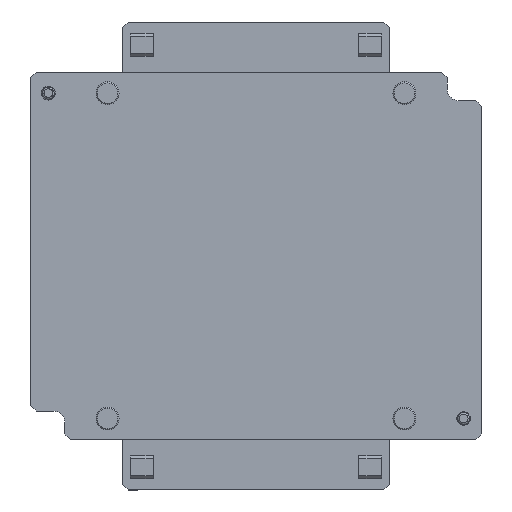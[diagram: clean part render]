
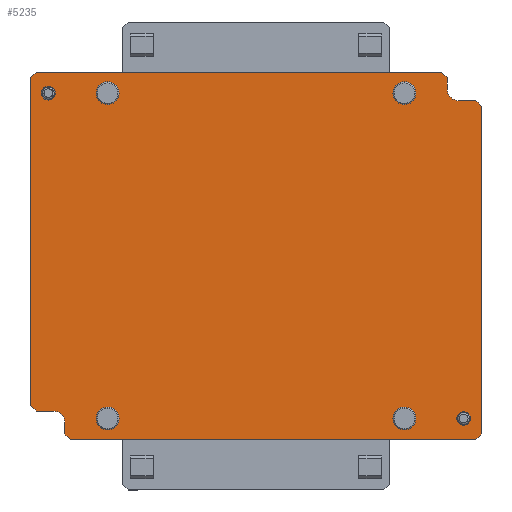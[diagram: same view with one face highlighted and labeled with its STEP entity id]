
A CAD part, top view. The second image highlights one B-rep face of the part: STEP entity #5235.
In plain terms, the highlighted planar face has unit normal (0, 0, 1).
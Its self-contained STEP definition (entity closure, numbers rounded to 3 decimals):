
#588=LINE('',#8418,#932);
#591=LINE('',#8423,#935);
#594=LINE('',#8429,#938);
#596=LINE('',#8433,#940);
#599=LINE('',#8439,#943);
#601=LINE('',#8443,#945);
#603=LINE('',#8448,#947);
#607=LINE('',#8454,#951);
#609=LINE('',#8460,#953);
#611=LINE('',#8466,#955);
#613=LINE('',#8470,#957);
#614=LINE('',#8472,#958);
#615=LINE('',#8475,#959);
#617=LINE('',#8478,#961);
#932=VECTOR('',#6920,7.071);
#935=VECTOR('',#6925,287.);
#938=VECTOR('',#6930,7.071);
#940=VECTOR('',#6934,10.);
#943=VECTOR('',#6939,7.071);
#945=VECTOR('',#6943,10.);
#947=VECTOR('',#6947,7.071);
#951=VECTOR('',#6953,15.);
#953=VECTOR('',#6961,15.);
#955=VECTOR('',#6969,355.);
#957=VECTOR('',#6973,355.);
#958=VECTOR('',#6976,7.071);
#959=VECTOR('',#6979,7.071);
#961=VECTOR('',#6983,287.);
#1269=FACE_BOUND('',#2006,.T.);
#1270=FACE_BOUND('',#2007,.T.);
#1271=FACE_BOUND('',#2008,.T.);
#1272=FACE_BOUND('',#2009,.T.);
#1273=FACE_BOUND('',#2010,.T.);
#1274=FACE_BOUND('',#2011,.T.);
#1549=FACE_OUTER_BOUND('',#2005,.T.);
#2005=EDGE_LOOP('',(#4315,#4316,#4317,#4318,#4319,#4320,#4321,#4322,#4323,
#4324,#4325,#4326,#4327,#4328,#4329,#4330));
#2006=EDGE_LOOP('',(#4331));
#2007=EDGE_LOOP('',(#4332));
#2008=EDGE_LOOP('',(#4333));
#2009=EDGE_LOOP('',(#4334));
#2010=EDGE_LOOP('',(#4335));
#2011=EDGE_LOOP('',(#4336));
#2320=CIRCLE('',#5627,6.);
#2325=CIRCLE('',#5637,6.);
#2332=CIRCLE('',#5651,10.);
#2335=CIRCLE('',#5657,10.);
#2338=CIRCLE('',#5663,10.);
#2341=CIRCLE('',#5669,10.);
#2372=CIRCLE('',#5741,10.);
#2373=CIRCLE('',#5744,10.);
#2655=VERTEX_POINT('',#8078);
#2660=VERTEX_POINT('',#8093);
#2667=VERTEX_POINT('',#8114);
#2670=VERTEX_POINT('',#8123);
#2673=VERTEX_POINT('',#8132);
#2676=VERTEX_POINT('',#8141);
#2785=VERTEX_POINT('',#8416);
#2786=VERTEX_POINT('',#8417);
#2787=VERTEX_POINT('',#8422);
#2788=VERTEX_POINT('',#8426);
#2789=VERTEX_POINT('',#8428);
#2790=VERTEX_POINT('',#8432);
#2791=VERTEX_POINT('',#8436);
#2792=VERTEX_POINT('',#8438);
#2793=VERTEX_POINT('',#8442);
#2794=VERTEX_POINT('',#8446);
#2795=VERTEX_POINT('',#8447);
#2796=VERTEX_POINT('',#8452);
#2797=VERTEX_POINT('',#8456);
#2798=VERTEX_POINT('',#8464);
#2799=VERTEX_POINT('',#8468);
#2800=VERTEX_POINT('',#8474);
#3174=EDGE_CURVE('',#2655,#2655,#2320,.T.);
#3179=EDGE_CURVE('',#2660,#2660,#2325,.T.);
#3186=EDGE_CURVE('',#2667,#2667,#2332,.T.);
#3189=EDGE_CURVE('',#2670,#2670,#2335,.T.);
#3192=EDGE_CURVE('',#2673,#2673,#2338,.T.);
#3195=EDGE_CURVE('',#2676,#2676,#2341,.T.);
#3328=EDGE_CURVE('',#2785,#2786,#588,.T.);
#3331=EDGE_CURVE('',#2787,#2786,#591,.T.);
#3334=EDGE_CURVE('',#2788,#2789,#594,.T.);
#3336=EDGE_CURVE('',#2790,#2789,#596,.T.);
#3339=EDGE_CURVE('',#2791,#2792,#599,.T.);
#3341=EDGE_CURVE('',#2793,#2792,#601,.T.);
#3343=EDGE_CURVE('',#2794,#2795,#603,.T.);
#3347=EDGE_CURVE('',#2794,#2796,#607,.T.);
#3348=EDGE_CURVE('',#2797,#2790,#2372,.T.);
#3350=EDGE_CURVE('',#2785,#2797,#609,.T.);
#3351=EDGE_CURVE('',#2796,#2793,#2373,.T.);
#3353=EDGE_CURVE('',#2791,#2798,#611,.T.);
#3355=EDGE_CURVE('',#2788,#2799,#613,.T.);
#3356=EDGE_CURVE('',#2787,#2798,#614,.T.);
#3357=EDGE_CURVE('',#2800,#2799,#615,.T.);
#3359=EDGE_CURVE('',#2800,#2795,#617,.T.);
#4315=ORIENTED_EDGE('',*,*,#3328,.F.);
#4316=ORIENTED_EDGE('',*,*,#3350,.T.);
#4317=ORIENTED_EDGE('',*,*,#3348,.T.);
#4318=ORIENTED_EDGE('',*,*,#3336,.T.);
#4319=ORIENTED_EDGE('',*,*,#3334,.F.);
#4320=ORIENTED_EDGE('',*,*,#3355,.T.);
#4321=ORIENTED_EDGE('',*,*,#3357,.F.);
#4322=ORIENTED_EDGE('',*,*,#3359,.T.);
#4323=ORIENTED_EDGE('',*,*,#3343,.F.);
#4324=ORIENTED_EDGE('',*,*,#3347,.T.);
#4325=ORIENTED_EDGE('',*,*,#3351,.T.);
#4326=ORIENTED_EDGE('',*,*,#3341,.T.);
#4327=ORIENTED_EDGE('',*,*,#3339,.F.);
#4328=ORIENTED_EDGE('',*,*,#3353,.T.);
#4329=ORIENTED_EDGE('',*,*,#3356,.F.);
#4330=ORIENTED_EDGE('',*,*,#3331,.T.);
#4331=ORIENTED_EDGE('',*,*,#3174,.T.);
#4332=ORIENTED_EDGE('',*,*,#3179,.T.);
#4333=ORIENTED_EDGE('',*,*,#3186,.T.);
#4334=ORIENTED_EDGE('',*,*,#3189,.T.);
#4335=ORIENTED_EDGE('',*,*,#3192,.T.);
#4336=ORIENTED_EDGE('',*,*,#3195,.T.);
#4961=PLANE('',#5752);
#5235=ADVANCED_FACE('',(#1549,#1269,#1270,#1271,#1272,#1273,#1274),#4961,
 .T.);
#5627=AXIS2_PLACEMENT_3D('',#8079,#6606,#6607);
#5637=AXIS2_PLACEMENT_3D('',#8094,#6626,#6627);
#5651=AXIS2_PLACEMENT_3D('',#8115,#6654,#6655);
#5657=AXIS2_PLACEMENT_3D('',#8124,#6666,#6667);
#5663=AXIS2_PLACEMENT_3D('',#8133,#6678,#6679);
#5669=AXIS2_PLACEMENT_3D('',#8142,#6690,#6691);
#5741=AXIS2_PLACEMENT_3D('',#8457,#6956,#6957);
#5744=AXIS2_PLACEMENT_3D('',#8462,#6964,#6965);
#5752=AXIS2_PLACEMENT_3D('',#8489,#6993,#6994);
#6606=DIRECTION('center_axis',(0.,0.,
-1.));
#6607=DIRECTION('ref_axis',(-1.,0.,0.));
#6626=DIRECTION('center_axis',(0.,0.,
-1.));
#6627=DIRECTION('ref_axis',(-1.,0.,0.));
#6654=DIRECTION('center_axis',(0.,0.,
-1.));
#6655=DIRECTION('ref_axis',(-1.,0.001,0.));
#6666=DIRECTION('center_axis',(0.,0.,
-1.));
#6667=DIRECTION('ref_axis',(-1.,0.001,0.));
#6678=DIRECTION('center_axis',(0.,0.,
-1.));
#6679=DIRECTION('ref_axis',(-1.,0.001,0.));
#6690=DIRECTION('center_axis',(0.,0.,
-1.));
#6691=DIRECTION('ref_axis',(-1.,0.001,0.));
#6920=DIRECTION('',(-0.707,0.707,0.));
#6925=DIRECTION('',(0.,-1.,0.));
#6930=DIRECTION('',(-0.707,0.707,0.));
#6934=DIRECTION('',(0.,-1.,0.));
#6939=DIRECTION('',(0.707,-0.707,0.));
#6943=DIRECTION('',(0.,1.,0.));
#6947=DIRECTION('',(0.707,-0.707,0.));
#6953=DIRECTION('',(-1.,0.,0.));
#6956=DIRECTION('center_axis',(0.,0.,
-1.));
#6957=DIRECTION('ref_axis',(-1.,0.,0.));
#6961=DIRECTION('',(1.,0.,0.));
#6964=DIRECTION('center_axis',(0.,0.,
-1.));
#6965=DIRECTION('ref_axis',(1.,0.,0.));
#6969=DIRECTION('',(-1.,0.,0.));
#6973=DIRECTION('',(1.,0.,0.));
#6976=DIRECTION('',(0.707,0.707,0.));
#6979=DIRECTION('',(-0.707,-0.707,0.));
#6983=DIRECTION('',(0.,1.,0.));
#6993=DIRECTION('center_axis',(0.,0.,
1.));
#6994=DIRECTION('ref_axis',(0.997,0.083,0.));
#8078=CARTESIAN_POINT('',(-188.,142.5,92.2));
#8079=CARTESIAN_POINT('Origin',(-182.,142.5,92.2));
#8093=CARTESIAN_POINT('',(176.,-142.5,92.2));
#8094=CARTESIAN_POINT('Origin',(182.,-142.5,92.2));
#8114=CARTESIAN_POINT('',(-140.,-142.491,92.2));
#8115=CARTESIAN_POINT('Origin',(-130.,-142.5,92.2));
#8123=CARTESIAN_POINT('',(-140.,142.509,92.2));
#8124=CARTESIAN_POINT('Origin',(-130.,142.5,92.2));
#8132=CARTESIAN_POINT('',(120.,142.509,92.2));
#8133=CARTESIAN_POINT('Origin',(130.,142.5,92.2));
#8141=CARTESIAN_POINT('',(120.,-142.491,92.2));
#8142=CARTESIAN_POINT('Origin',(130.,-142.5,92.2));
#8416=CARTESIAN_POINT('',(-192.5,-136.,92.2));
#8417=CARTESIAN_POINT('',(-197.5,-131.,92.2));
#8418=CARTESIAN_POINT('',(-179.625,-148.875,92.2));
#8422=CARTESIAN_POINT('',(-197.5,156.,92.2));
#8423=CARTESIAN_POINT('',(-197.5,-161.,92.2));
#8426=CARTESIAN_POINT('',(-162.5,-161.,92.2));
#8428=CARTESIAN_POINT('',(-167.5,-156.,92.2));
#8429=CARTESIAN_POINT('',(-163.375,-160.125,92.2));
#8432=CARTESIAN_POINT('',(-167.5,-146.,92.2));
#8433=CARTESIAN_POINT('',(-167.5,-73.,92.2));
#8436=CARTESIAN_POINT('',(162.5,161.,92.2));
#8438=CARTESIAN_POINT('',(167.5,156.,92.2));
#8439=CARTESIAN_POINT('',(163.375,160.125,92.2));
#8442=CARTESIAN_POINT('',(167.5,146.,92.2));
#8443=CARTESIAN_POINT('',(167.5,73.,92.2));
#8446=CARTESIAN_POINT('',(192.5,136.,92.2));
#8447=CARTESIAN_POINT('',(197.5,131.,92.2));
#8448=CARTESIAN_POINT('',(179.625,148.875,92.2));
#8452=CARTESIAN_POINT('',(177.5,136.,92.2));
#8454=CARTESIAN_POINT('',(98.75,136.,92.2));
#8456=CARTESIAN_POINT('',(-177.5,-136.,92.2));
#8457=CARTESIAN_POINT('Origin',(-177.5,-146.,92.2));
#8460=CARTESIAN_POINT('',(-98.75,-136.,92.2));
#8462=CARTESIAN_POINT('Origin',(177.5,146.,92.2));
#8464=CARTESIAN_POINT('',(-192.5,161.,92.2));
#8466=CARTESIAN_POINT('',(-197.5,161.,92.2));
#8468=CARTESIAN_POINT('',(192.5,-161.,92.2));
#8470=CARTESIAN_POINT('',(197.5,-161.,92.2));
#8472=CARTESIAN_POINT('',(-185.875,167.625,92.2));
#8474=CARTESIAN_POINT('',(197.5,-156.,92.2));
#8475=CARTESIAN_POINT('',(185.875,-167.625,92.2));
#8478=CARTESIAN_POINT('',(197.5,161.,92.2));
#8489=CARTESIAN_POINT('Origin',(0.,0.,
92.2));
